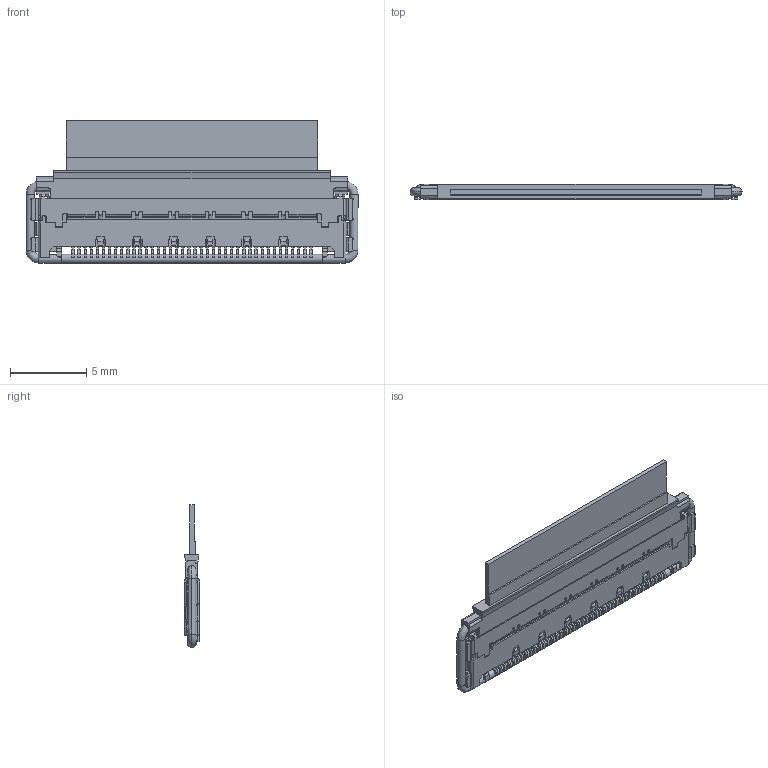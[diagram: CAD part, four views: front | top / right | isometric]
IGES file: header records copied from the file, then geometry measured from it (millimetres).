
Start section: SolidWorks IGES file using analytic representation for surfaces
Global section: file name: C:\Users\09466\Desktop\CABLINE-CAF HP—p\20525+20858_MATING.IGS; native system: SolidWorks 2023; preprocessor: SolidWorks 2023; author: 09466; date: 231101.133502; units: millimetre
Bounding box: 21.75 x 1 x 9.35 mm (x, y, z)
Surface area: 506.4 mm2 (no closed solid volume)
Topology: 0 solids, 0 shells, 1536 faces, 10816 edges, 10816 vertices
Faces by surface type: bspline 1032, revolution 504
